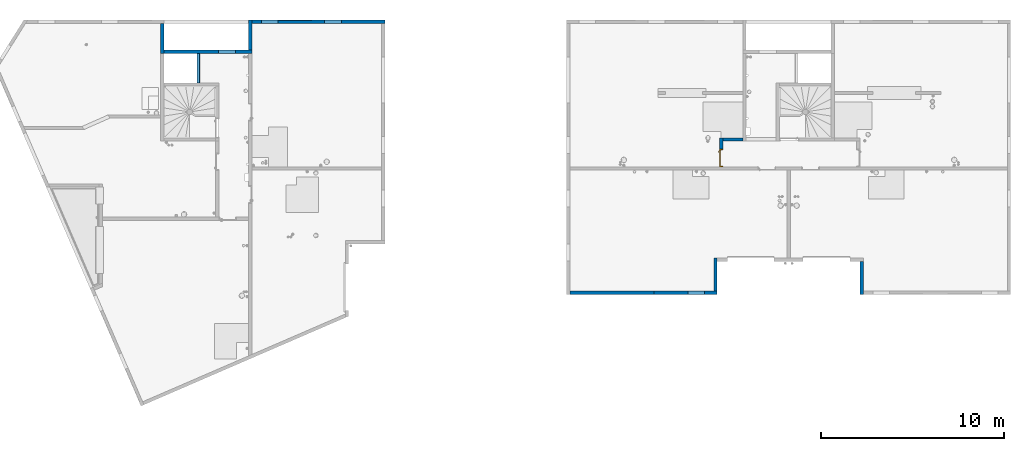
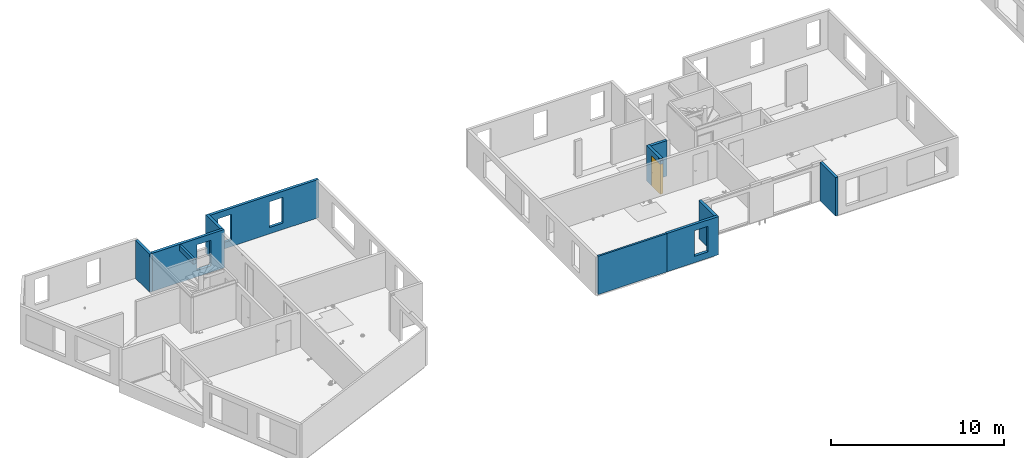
# One storey, part 6 of 24: 11 walls, 1 door, 11 openings.
"""IFC2X3 building model written with IfcOpenShell, lengths in centimetres."""

from ifc_helpers import new_model, entity, si_unit, converted_unit, derived_unit, direction, frame, frame_2d, origin, place, context, subcontext, project, spatial, polyline, rectangle, extrude, clip, bounded_halfspace, faceted_brep, source, transform, mapped, material, material_list, layer, layer_set, layer_usage, type_object, type_shapes, element, fill, save


model = new_model("IFC2X3")

# Units and contexts
model_context = context("Model", 3, precision=0.001, world=origin(), true_north=direction((6.12303176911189e-17, 1.0)))
body_context = subcontext(model_context, "Body", "Model", "MODEL_VIEW")
ifc_project = project(units=[si_unit("LENGTHUNIT", "METRE", prefix="CENTI"), si_unit("AREAUNIT", "SQUARE_METRE"), si_unit("VOLUMEUNIT", "CUBIC_METRE"), converted_unit("PLANEANGLEUNIT", "DEGREE", entity("IfcRatioMeasure", 0.0174532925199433), si_unit("PLANEANGLEUNIT", "RADIAN"), dimensions=[0, 0, 0, 0, 0, 0, 0]), si_unit("MASSUNIT", "GRAM", prefix="KILO"), derived_unit("MASSDENSITYUNIT", [(si_unit("MASSUNIT", "GRAM", prefix="KILO"), 1), (si_unit("LENGTHUNIT", "METRE"), -3)]), si_unit("TIMEUNIT", "SECOND"), si_unit("FREQUENCYUNIT", "HERTZ"), si_unit("THERMODYNAMICTEMPERATUREUNIT", "DEGREE_CELSIUS"), derived_unit("THERMALTRANSMITTANCEUNIT", [(si_unit("MASSUNIT", "GRAM", prefix="KILO"), 1), (si_unit("THERMODYNAMICTEMPERATUREUNIT", "KELVIN"), -1), (si_unit("TIMEUNIT", "SECOND"), -3)]), derived_unit("VOLUMETRICFLOWRATEUNIT", [(si_unit("LENGTHUNIT", "METRE"), 3), (si_unit("TIMEUNIT", "SECOND"), -1)]), si_unit("ELECTRICCURRENTUNIT", "AMPERE"), si_unit("ELECTRICVOLTAGEUNIT", "VOLT"), si_unit("POWERUNIT", "WATT"), si_unit("FORCEUNIT", "NEWTON"), si_unit("ILLUMINANCEUNIT", "LUX"), si_unit("LUMINOUSFLUXUNIT", "LUMEN"), si_unit("LUMINOUSINTENSITYUNIT", "CANDELA"), derived_unit("USERDEFINED", [(si_unit("MASSUNIT", "GRAM", prefix="KILO"), -1), (si_unit("LENGTHUNIT", "METRE"), -2), (si_unit("TIMEUNIT", "SECOND"), 3), (si_unit("LUMINOUSFLUXUNIT", "LUMEN"), 1)]), derived_unit("LINEARVELOCITYUNIT", [(si_unit("LENGTHUNIT", "METRE"), 1), (si_unit("TIMEUNIT", "SECOND"), -1)]), si_unit("PRESSUREUNIT", "PASCAL"), derived_unit("USERDEFINED", [(si_unit("LENGTHUNIT", "METRE"), -2), (si_unit("MASSUNIT", "GRAM", prefix="KILO"), 1), (si_unit("TIMEUNIT", "SECOND"), -2)])], contexts=[model_context])

# Site, building, storey
site_placement = place(None, origin())
site = spatial("IfcSite", under=ifc_project, at=site_placement, Name="Default", CompositionType="ELEMENT")
building_placement = place(site_placement, origin())
building = spatial("IfcBuilding", under=site, at=building_placement, Name="CAGE 03", CompositionType="ELEMENT")
storey_placement = place(building_placement, frame((0.0, 0.0, 1150.0)))
storey = spatial("IfcBuildingStorey", under=building, at=storey_placement, Name="R+4", CompositionType="ELEMENT", Elevation=1150.0)

# Wall
ifc_material_1 = material(Name="Béton, C25/30")
ifc_layer_1 = layer(ifc_material_1, 18.0)
ifc_layer_set_1 = layer_set([ifc_layer_1], Name="Mur de base:Voile BA 18")
ifc_layer_usage_1 = layer_usage(ifc_layer_set_1, "AXIS2", "NEGATIVE", 9.0)
wall_type_1 = type_object("IfcWallType", Name="Mur de base:Voile BA 18", PredefinedType="STANDARD", material=ifc_layer_set_1)
wall_1_placement = place(storey_placement, frame((3663.36582014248, 5275.66066607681, 0.0), z_axis=(0.0, 0.0, 1.0), x_axis=(0.0, -1.0, 0.0)))
element("IfcWallStandardCase", 1, at=wall_1_placement, inside=storey, type_object=wall_type_1, material=ifc_layer_usage_1, Name="Mur de base:Voile BA 18", ObjectType="Mur de base:Voile BA 18", context=body_context, shape_type="SweptSolid", body=[
    extrude(rectangle(XDim=165.0, YDim=18.0000000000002, at=frame_2d((82.4999999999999, 7.54951656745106e-14), x_axis=(-1.0, 0.0))), origin(), (0.0, 0.0, 1.0), 270.0),
])

# Wall, openings
ifc_layer_usage_2 = layer_usage(ifc_layer_set_1, "AXIS2", "NEGATIVE", 9.0)
wall_2_placement = place(storey_placement, frame((3672.36582014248, 5119.66066607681, 0.0)))
wall_2 = element("IfcWallStandardCase", 2, at=wall_2_placement, inside=storey, type_object=wall_type_1, material=ifc_layer_usage_2, Name="Mur de base:Voile BA 18", ObjectType="Mur de base:Voile BA 18", context=body_context, shape_type="SweptSolid", body=[
    extrude(rectangle(XDim=479.999999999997, YDim=17.9999999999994, at=frame_2d((239.999999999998, 1.87405646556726e-13), x_axis=(-1.0, 0.0))), origin(), (0.0, 0.0, 1.0), 270.0),
])
opening_1_placement = place(wall_2_placement, origin())
element("IfcOpeningElement", 3, at=opening_1_placement, cuts=wall_2, Name="Mur de base:Voile BA 18", ObjectType="Opening", context=body_context, shape_type="SweptSolid", body=[
    extrude(rectangle(XDim=227.0, YDim=17.9999999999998, at=frame_2d((2.16715534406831e-13, 2.20268248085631e-13), x_axis=(0.0, 1.0))), frame((189.0, -169.0, 113.5), z_axis=(0.0, 1.0, 0.0), x_axis=(1.0, 0.0, 0.0)), (0.0, 0.0, 1.0), 160.0),
])
opening_2_placement = place(wall_2_placement, frame((-3672.36582014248, -5119.66066607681, 0.0)))
element("IfcOpeningElement", 4, at=opening_2_placement, cuts=wall_2, Name="Mur de base:Voile BA 18", ObjectType="Opening", context=body_context, shape_type="SweptSolid", body=[
    extrude(rectangle(XDim=181.0, YDim=95.0000000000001, at=frame_2d((-2.1316282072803e-13, -4.33431068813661e-13), x_axis=(1.0, 0.0))), frame((4016.86582014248, 4958.26066607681, 135.5), z_axis=(0.0, 1.0, 0.0), x_axis=(0.0, 0.0, 1.0)), (0.0, 0.0, 1.0), 304.8),
])

# Walls
ifc_layer_usage_3 = layer_usage(ifc_layer_set_1, "AXIS2", "POSITIVE", -9.0)
wall_3_placement = place(storey_placement, frame((4143.36582014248, 5293.66066607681, 0.0), z_axis=(0.0, 0.0, 1.0), x_axis=(0.0, -1.0, 0.0)))
element("IfcWallStandardCase", 5, at=wall_3_placement, inside=storey, type_object=wall_type_1, material=ifc_layer_usage_3, Name="Mur de base:Voile BA 18", ObjectType="Mur de base:Voile BA 18", context=body_context, shape_type="SweptSolid", body=[
    extrude(rectangle(XDim=165.000000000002, YDim=17.9999999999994, at=frame_2d((82.5000000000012, -9.76996261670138e-15), x_axis=(-1.0, 0.0))), origin(), (0.0, 0.0, 1.0), 270.0),
])
ifc_layer_usage_4 = layer_usage(ifc_layer_set_1, "AXIS2", "POSITIVE", -9.0)
wall_4_placement = place(storey_placement, frame((6682.36582014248, 3814.6606660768, 0.0), z_axis=(0.0, 0.0, 1.0), x_axis=(0.0, 1.0, 0.0)))
element("IfcWallStandardCase", 6, at=wall_4_placement, inside=storey, type_object=wall_type_1, material=ifc_layer_usage_4, Name="Mur de base:Voile BA 18", ObjectType="Mur de base:Voile BA 18", context=body_context, shape_type="SweptSolid", body=[
    extrude(rectangle(XDim=179.999999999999, YDim=17.9999999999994, at=frame_2d((89.9999999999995, -1.4299672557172e-13), x_axis=(-1.0, 0.0))), origin(), (0.0, 0.0, 1.0), 270.0),
])
ifc_layer_usage_5 = layer_usage(ifc_layer_set_1, "AXIS2", "POSITIVE", -9.0)
wall_5_placement = place(storey_placement, frame((7480.36582014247, 3976.6606660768, 0.0), z_axis=(0.0, 0.0, 1.0), x_axis=(0.0, -1.0, 0.0)))
element("IfcWallStandardCase", 7, at=wall_5_placement, inside=storey, type_object=wall_type_1, material=ifc_layer_usage_5, Name="Mur de base:Voile BA 18", ObjectType="Mur de base:Voile BA 18", context=body_context, shape_type="SweptSolid", body=[
    extrude(rectangle(XDim=179.999999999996, YDim=17.9999999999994, at=frame_2d((89.9999999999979, -7.19424519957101e-14), x_axis=(-1.0, 0.0))), origin(), (0.0, 0.0, 1.0), 270.0),
])

# Wall, openings
ifc_layer_usage_6 = layer_usage(ifc_layer_set_1, "AXIS2", "POSITIVE", -9.0)
wall_6_placement = place(storey_placement, frame((4878.36582014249, 5284.66066607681, 0.0), z_axis=(0.0, 0.0, 1.0), x_axis=(-1.0, 0.0, 0.0)))
wall_6 = element("IfcWallStandardCase", 8, at=wall_6_placement, inside=storey, type_object=wall_type_1, material=ifc_layer_usage_6, Name="Mur de base:Voile BA 18", ObjectType="Mur de base:Voile BA 18", context=body_context, shape_type="SweptSolid", body=[
    extrude(rectangle(XDim=726.000000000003, YDim=17.9999999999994, at=frame_2d((363.000000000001, -2.1582735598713e-13), x_axis=(-1.0, 0.0))), origin(), (0.0, 0.0, 1.0), 270.0),
])
opening_3_placement = place(wall_6_placement, origin())
element("IfcOpeningElement", 9, at=opening_3_placement, cuts=wall_6, Name="Mur de base:Voile BA 18", ObjectType="Recess", context=body_context, shape_type="SweptSolid", body=[
    extrude(rectangle(XDim=181.0, YDim=184.0, at=frame_2d((0.0, -1.06581410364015e-13), x_axis=(0.0, 1.0))), frame((491.0, -9.0, 135.5), z_axis=(0.0, 1.0, 0.0), x_axis=(1.0, 0.0, 0.0)), (0.0, 0.0, 1.0), 1.99999999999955),
])
opening_4_placement = place(wall_6_placement, frame((4878.36582014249, 5284.66066607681, 0.0), z_axis=(0.0, 0.0, 1.0), x_axis=(-1.0, 0.0, 0.0)))
element("IfcOpeningElement", 10, at=opening_4_placement, cuts=wall_6, Name="Mur de base:Voile BA 18", ObjectType="Opening", context=body_context, shape_type="SweptSolid", body=[
    extrude(rectangle(XDim=181.0, YDim=91.0000000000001, at=frame_2d((0.0, 0.0), x_axis=(0.0, 1.0))), frame((4249.86582014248, 5428.06066607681, 135.5), z_axis=(0.0, -1.0, 0.0), x_axis=(1.0, 0.0, 0.0)), (0.0, 0.0, 1.0), 304.8),
])
opening_5_placement = place(wall_6_placement, frame((4878.36582014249, 5284.66066607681, 0.0), z_axis=(0.0, 0.0, 1.0), x_axis=(-1.0, 0.0, 0.0)))
element("IfcOpeningElement", 11, at=opening_5_placement, cuts=wall_6, Name="Mur de base:Voile BA 18", ObjectType="Opening", context=body_context, shape_type="SweptSolid", body=[
    extrude(rectangle(XDim=181.0, YDim=91.0000000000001, at=frame_2d((0.0, 0.0), x_axis=(0.0, 1.0))), frame((4594.86582014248, 5428.06066607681, 135.5), z_axis=(0.0, -1.0, 0.0), x_axis=(1.0, 0.0, 0.0)), (0.0, 0.0, 1.0), 304.8),
])

# Wall, openings, door
ifc_layer_usage_7 = layer_usage(ifc_layer_set_1, "AXIS2", "NEGATIVE", 9.0)
wall_7_placement = place(storey_placement, frame((6713.36582014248, 4492.6606660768, 0.0), z_axis=(0.0, 0.0, 1.0), x_axis=(0.0, 1.0, 0.0)))
wall_7 = element("IfcWallStandardCase", 12, at=wall_7_placement, inside=storey, type_object=wall_type_1, material=ifc_layer_usage_7, Name="Mur de base:Voile BA 18", ObjectType="Mur de base:Voile BA 18", context=body_context, shape_type="SweptSolid", body=[
    extrude(rectangle(XDim=158.0, YDim=17.9999999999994, at=frame_2d((79.0000000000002, 1.66977542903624e-13), x_axis=(-1.0, 0.0))), origin(), (0.0, 0.0, 1.0), 250.0),
])
opening_6_placement = place(wall_7_placement, origin())
element("IfcOpeningElement", 13, at=opening_6_placement, cuts=wall_7, Name="Mur de base:Voile BA 18", ObjectType="Opening", context=body_context, shape_type="SweptSolid", body=[
    extrude(rectangle(XDim=10.0000000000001, YDim=19.9999999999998, at=frame_2d((-4.33431068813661e-13, 1.08357767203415e-13), x_axis=(0.0, 1.0))), frame((10.0, -9.0, 242.500000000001), z_axis=(0.0, 1.0, 0.0), x_axis=(1.0, 0.0, 0.0)), (0.0, 0.0, 1.0), 17.9999999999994),
])
opening_7_placement = place(wall_7_placement, frame((0.0, -9.0, 0.0)))
opening_7 = element("IfcOpeningElement", 14, at=opening_7_placement, cuts=wall_7, Name="Int. Simple:HB93:1", ObjectType="Opening", context=body_context, shape_type="SweptSolid", body=[
    extrude(rectangle(XDim=210.000000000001, YDim=96.9999999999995, at=frame_2d((105.000000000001, 48.4999999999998), x_axis=(1.0, 0.0))), frame((0.0, 0.0, 0.0), z_axis=(0.0, 1.0, 0.0), x_axis=(0.0, 0.0, 1.0)), (0.0, 0.0, 1.0), 18.0),
])
ifc_material_2 = material(Name="Finition Peinture - Blanc satiné")
ifc_material_3 = material(Name="Bois - Panneau de porte")
ifc_material_4 = material(Name="Bois - Cadre de porte")
ifc_material_list_1 = material_list([ifc_material_2, ifc_material_3, ifc_material_4])
ifc_material_list_2 = material_list([ifc_material_2, ifc_material_3, ifc_material_4])
door_style = type_object("IfcDoorStyle", Name="HB93", ConstructionType="NOTDEFINED", OperationType="SINGLE_SWING_LEFT", ParameterTakesPrecedence=False, Sizeable=False, material=ifc_material_list_2)
shared_shape = source(origin(), body_context, "Body", "Brep", [
    faceted_brep([(10.5352761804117, -0.500000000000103, 86.6003983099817), (11.5000000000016, -0.500000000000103, 87.0), (11.5000000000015, -0.500000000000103, 108.0), (10.5352761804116, -0.500000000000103, 108.399601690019), (9.50000000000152, -0.500000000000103, 108.535898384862), (8.46472381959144, -0.500000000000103, 108.399601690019), (7.50000000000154, -0.500000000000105, 108.0), (7.50000000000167, -0.500000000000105, 87.0), (8.46472381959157, -0.500000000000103, 86.6003983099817), (9.50000000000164, -0.500000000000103, 86.464101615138), (10.5352761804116, 0.0, 108.399601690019), (11.5000000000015, 0.0, 108.0), (11.5000000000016, 0.0, 87.0), (10.5352761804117, 0.0, 86.6003983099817), (9.50000000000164, 0.0, 86.464101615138), (8.46472381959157, 0.0, 86.6003983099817), (7.50000000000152, 0.0, 87.0), (7.50000000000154, 0.0, 108.0), (8.46472381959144, 0.0, 108.399601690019), (9.50000000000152, 0.0, 108.535898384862)], [[[0, 1, 2, 3, 4, 5, 6, 7, 8, 9]], [[10, 11, 12, 13, 14, 15, 16, 17, 18, 19]], [[16, 15, 8, 7]], [[8, 15, 14, 9]], [[14, 13, 0, 9]], [[13, 12, 1, 0]], [[2, 1, 12, 11]], [[11, 10, 3, 2]], [[3, 10, 19, 4]], [[19, 18, 5, 4]], [[18, 17, 6, 5]], [[7, 6, 17, 16]]]),
    faceted_brep([(10.5352761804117, 4.0, 86.6003983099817), (11.5000000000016, 4.0, 87.0), (11.5000000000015, 4.0, 108.0), (10.5352761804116, 4.0, 108.399601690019), (9.50000000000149, 4.0, 108.535898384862), (8.46472381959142, 4.0, 108.399601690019), (7.50000000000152, 4.0, 108.0), (7.50000000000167, 4.0, 87.0), (8.46472381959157, 4.0, 86.6003983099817), (9.50000000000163, 4.0, 86.464101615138), (10.5352761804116, 4.49999999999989, 108.399601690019), (11.5000000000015, 4.4999999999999, 108.0), (11.5000000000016, 4.4999999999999, 87.0), (10.5352761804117, 4.49999999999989, 86.6003983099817), (9.50000000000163, 4.49999999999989, 86.464101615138), (8.46472381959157, 4.49999999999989, 86.6003983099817), (7.50000000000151, 4.49999999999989, 87.0), (7.50000000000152, 4.49999999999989, 108.0), (8.46472381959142, 4.49999999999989, 108.399601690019), (9.50000000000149, 4.49999999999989, 108.535898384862)], [[[0, 1, 2, 3, 4, 5, 6, 7, 8, 9]], [[10, 11, 12, 13, 14, 15, 16, 17, 18, 19]], [[11, 10, 3, 2]], [[3, 10, 19, 4]], [[19, 18, 5, 4]], [[18, 17, 6, 5]], [[7, 6, 17, 16]], [[16, 15, 8, 7]], [[8, 15, 14, 9]], [[14, 13, 0, 9]], [[13, 12, 1, 0]], [[2, 1, 12, 11]]]),
    faceted_brep([(9.29747013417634, -0.500000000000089, 100.778044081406), (9.70252986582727, -0.500000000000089, 100.778044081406), (10.1000000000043, -0.500000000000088, 100.699999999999), (10.1000000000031, -0.500000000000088, 99.3000000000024), (9.70252986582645, -0.500000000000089, 99.2219559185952), (9.29747013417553, -0.500000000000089, 99.221955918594), (8.89999999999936, -0.500000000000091, 99.2999999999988), (8.89999999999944, -0.500000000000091, 100.7), (8.89999999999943, -3.26509507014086, 100.7), (9.29747013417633, -3.10045754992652, 100.778044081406), (10.9023585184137, -4.70534593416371, 100.778044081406), (11.0701397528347, -4.30028620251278, 100.778044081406), (9.70252986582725, -2.93267631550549, 100.778044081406), (10.1000000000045, -2.76803879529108, 100.7), (10.1000000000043, -2.76803879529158, 99.3000000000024), (9.70252986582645, -2.93267631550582, 99.2219559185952), (11.0701397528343, -4.30028620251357, 99.2219559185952), (10.9023585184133, -4.70534593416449, 99.221955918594), (9.29747013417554, -3.10045754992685, 99.221955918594), (8.89999999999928, -3.26509507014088, 99.2999999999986), (10.7377209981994, -5.1028160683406, 100.7), (11.2347772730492, -3.90281606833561, 100.7), (11.2347772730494, -3.90281606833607, 99.3000000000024), (10.7377209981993, -5.10281606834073, 99.2999999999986), (19.5018640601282, -5.1028160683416, 99.2999999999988), (19.5018640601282, -4.70534593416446, 99.221955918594), (19.5018640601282, -4.30028620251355, 99.2219559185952), (19.5018640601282, -3.90281606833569, 99.3000000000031), (19.5018640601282, -3.90281606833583, 100.7), (19.5018640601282, -4.30028620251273, 100.778044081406), (19.5018640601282, -4.70534593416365, 100.778044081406), (19.5018640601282, -5.10281606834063, 100.699999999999), (14.7307697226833, -5.10281606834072, 100.7), (15.28600190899, -4.5028160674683, 100.78786867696), (15.3683206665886, -3.9028160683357, 100.7), (15.3683206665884, -3.90281606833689, 99.3000000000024), (15.2860018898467, -4.50281607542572, 99.2121313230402), (14.7307700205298, -5.10281606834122, 99.2999999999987)], [[[0, 1, 2, 3, 4, 5, 6, 7]], [[8, 9, 0, 7]], [[9, 10, 11, 12, 1, 0]], [[12, 13, 2, 1]], [[3, 2, 13, 14]], [[14, 15, 4, 3]], [[15, 16, 17, 18, 5, 4]], [[18, 19, 6, 5]], [[7, 6, 19, 8]], [[20, 10, 9, 8]], [[11, 21, 13, 12]], [[14, 13, 21, 22]], [[22, 16, 15, 14]], [[17, 23, 19, 18]], [[8, 19, 23, 20]], [[24, 25, 26, 27, 28, 29, 30, 31]], [[32, 30, 33]], [[31, 30, 32]], [[10, 20, 32]], [[33, 34, 11]], [[21, 11, 34]], [[34, 29, 28]], [[30, 29, 33]], [[29, 34, 33]], [[10, 32, 33]], [[10, 33, 11]], [[22, 21, 34, 28, 27, 35]], [[35, 26, 36]], [[37, 36, 25]], [[22, 35, 16]], [[35, 27, 26]], [[24, 37, 25]], [[23, 17, 37]], [[37, 17, 36]], [[17, 16, 36]], [[16, 35, 36]], [[25, 36, 26]], [[20, 23, 37, 24, 31, 32]]]),
    faceted_brep([(9.29747013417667, 4.49999999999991, 100.778044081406), (8.89999999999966, 4.49999999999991, 100.7), (8.89999999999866, 4.49999999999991, 99.2999999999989), (9.2974701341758, 4.49999999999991, 99.221955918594), (9.70252986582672, 4.49999999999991, 99.2219559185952), (10.1000000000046, 4.49999999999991, 99.3000000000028), (10.1000000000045, 4.49999999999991, 100.7), (9.70252986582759, 4.49999999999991, 100.778044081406), (10.1000000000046, 6.7485204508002, 99.3000000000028), (10.1000000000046, 6.74852045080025, 100.7), (9.70252986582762, 6.91315797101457, 100.778044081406), (11.0838906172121, 8.29451872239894, 100.778044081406), (10.9161093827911, 8.69957845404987, 100.778044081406), (9.29747013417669, 7.0809392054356, 100.778044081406), (8.89999999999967, 7.24557672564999, 100.7), (8.89999999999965, 7.24557672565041, 99.2999999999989), (9.29747013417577, 7.08093920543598, 99.221955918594), (10.9161093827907, 8.69957845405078, 99.221955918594), (11.0838906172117, 8.29451872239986, 99.2219559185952), (9.7025298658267, 6.91315797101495, 99.2219559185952), (11.2485281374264, 7.89704858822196, 99.3000000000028), (11.2485281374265, 7.89704858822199, 100.7), (10.7514718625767, 9.0970485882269, 100.7), (10.751471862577, 9.0970485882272, 99.2999999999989), (19.504578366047, 7.89704858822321, 99.3000000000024), (19.504578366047, 8.29451872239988, 99.2219559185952), (19.504578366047, 8.6995784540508, 99.221955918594), (19.504578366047, 9.09704858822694, 99.2999999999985), (19.504578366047, 9.09704858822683, 100.7), (19.504578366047, 8.69957845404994, 100.778044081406), (19.504578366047, 8.29451872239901, 100.778044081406), (19.504578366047, 7.89704858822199, 100.7), (15.3765520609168, 7.89704858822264, 99.3000000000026), (15.3765532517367, 7.89704858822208, 100.7), (15.294234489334, 8.49704858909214, 100.78786867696), (14.7445205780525, 9.09704858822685, 100.7), (14.7445204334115, 9.09704858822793, 99.2999999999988), (15.2942345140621, 8.49704858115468, 99.2121313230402)], [[[0, 1, 2, 3, 4, 5, 6, 7]], [[6, 5, 8, 9]], [[9, 10, 7, 6]], [[10, 11, 12, 13, 0, 7]], [[13, 14, 1, 0]], [[2, 1, 14, 15]], [[15, 16, 3, 2]], [[16, 17, 18, 19, 4, 3]], [[19, 8, 5, 4]], [[9, 8, 20, 21]], [[21, 11, 10, 9]], [[12, 22, 14, 13]], [[15, 14, 22, 23]], [[23, 17, 16, 15]], [[18, 20, 8, 19]], [[24, 25, 26, 27, 28, 29, 30, 31]], [[21, 20, 32, 24, 31, 33]], [[33, 30, 34]], [[35, 34, 29]], [[21, 33, 11]], [[33, 31, 30]], [[28, 35, 29]], [[22, 12, 35]], [[35, 12, 34]], [[12, 11, 34]], [[11, 33, 34]], [[29, 34, 30]], [[22, 35, 28, 27, 36, 23]], [[36, 26, 37]], [[27, 26, 36]], [[17, 23, 36]], [[37, 32, 18]], [[20, 18, 32]], [[32, 25, 24]], [[26, 25, 37]], [[25, 32, 37]], [[17, 36, 37]], [[17, 37, 18]]]),
    faceted_brep([(3.50000000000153, 4.0, 206.5), (93.5000000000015, 4.0, 206.5), (93.5000000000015, 4.0, 0.0), (3.50000000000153, 4.0, 0.0), (3.50000000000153, 0.0, 206.5), (3.50000000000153, 0.0, 0.0), (93.5000000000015, 0.0, 0.0), (93.5000000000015, 0.0, 206.5)], [[[0, 1, 2, 3]], [[4, 5, 6, 7]], [[1, 0, 4, 7]], [[2, 1, 7, 6]], [[3, 2, 6, 5]], [[0, 3, 5, 4]]]),
    faceted_brep([(0.0, 0.0, 0.0), (0.0, 18.0, 0.0), (5.0, 18.0, 0.0), (5.0, 4.0, 0.0), (3.50000000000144, 4.0, 0.0), (3.50000000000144, 0.0, 0.0), (0.0, 0.0, 210.0), (0.0, 18.0, 210.0), (97.0, 18.0, 210.0), (97.0, 18.0, 0.0), (92.0, 18.0, 0.0), (92.0, 18.0, 205.0), (5.0, 18.0, 205.0), (5.0, 4.0, 205.0), (92.0, 4.0, 205.0), (92.0, 4.0, 0.0), (93.4999999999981, 4.0, 0.0), (93.4999999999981, 4.0, 206.5), (3.50000000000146, 4.0, 206.5), (3.50000000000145, 0.0, 206.5), (93.4999999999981, 0.0, 206.5), (93.4999999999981, 0.0, 0.0), (97.0, 0.0, 0.0), (97.0, 0.0, 210.0)], [[[0, 1, 2, 3, 4, 5]], [[1, 0, 6, 7]], [[2, 1, 7, 8, 9, 10, 11, 12]], [[3, 2, 12, 13]], [[4, 3, 13, 14, 15, 16, 17, 18]], [[5, 4, 18, 19]], [[0, 5, 19, 20, 21, 22, 23, 6]], [[8, 23, 22, 9]], [[22, 21, 16, 15, 10, 9]], [[14, 11, 10, 15]], [[20, 17, 16, 21]], [[7, 6, 23, 8]], [[13, 12, 11, 14]], [[19, 18, 17, 20]]]),
    faceted_brep([(1.5, 18.0, 0.0), (-1.49999999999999, 18.0, 0.0), (-1.49999999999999, 18.5000000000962, 0.0), (1.5, 18.5000000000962, 0.0), (1.5, 18.0, 208.500000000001), (95.4999999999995, 18.0, 208.500000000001), (95.4999999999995, 18.0, 0.0), (98.4999999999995, 18.0, 0.0), (98.4999999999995, 18.0, 211.500000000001), (-1.49999999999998, 18.0, 211.500000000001), (-1.49999999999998, 18.5000000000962, 211.500000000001), (98.4999999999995, 18.5000000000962, 211.500000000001), (98.4999999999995, 18.5000000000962, 0.0), (95.4999999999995, 18.5000000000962, 0.0), (95.4999999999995, 18.5000000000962, 208.500000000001), (1.50000000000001, 18.5000000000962, 208.500000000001)], [[[0, 1, 2, 3]], [[1, 0, 4, 5, 6, 7, 8, 9]], [[2, 1, 9, 10]], [[3, 2, 10, 11, 12, 13, 14, 15]], [[0, 3, 15, 4]], [[6, 13, 12, 7]], [[5, 14, 13, 6]], [[11, 8, 7, 12]], [[10, 9, 8, 11]], [[4, 15, 14, 5]]]),
    faceted_brep([(-1.49999999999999, -0.5, 0.0), (1.5, -0.5, 0.0), (1.5, -0.5, 208.500000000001), (95.4999999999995, -0.5, 208.500000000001), (95.4999999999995, -0.5, 0.0), (98.4999999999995, -0.5, 0.0), (98.4999999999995, -0.5, 211.500000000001), (-1.49999999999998, -0.5, 211.500000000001), (-1.49999999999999, 0.0, 0.0), (-1.49999999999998, 0.0, 211.500000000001), (1.5, 0.0, 0.0), (98.4999999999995, 0.0, 211.500000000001), (98.4999999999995, 0.0, 0.0), (95.4999999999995, 0.0, 0.0), (95.4999999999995, 0.0, 208.500000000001), (1.50000000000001, 0.0, 208.500000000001)], [[[0, 1, 2, 3, 4, 5, 6, 7]], [[8, 0, 7, 9]], [[10, 8, 9, 11, 12, 13, 14, 15]], [[1, 10, 15, 2]], [[3, 14, 13, 4]], [[11, 6, 5, 12]], [[9, 7, 6, 11]], [[2, 15, 14, 3]], [[4, 13, 12, 5]], [[1, 0, 8, 10]]]),
])
type_shapes(door_style, [shared_shape])
door_placement = place(opening_7_placement, frame((97.0, 18.0, 0.0), z_axis=(0.0, 0.0, 1.0), x_axis=(-1.0, 0.0, 0.0)))
door = element("IfcDoor", 15, at=door_placement, inside=storey, type_object=door_style, material=ifc_material_list_1, Name="Int. Simple:HB93", ObjectType="HB93", OverallHeight=210.000000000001, OverallWidth=96.9999999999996, context=body_context, shape_type="MappedRepresentation", body=[
    mapped(shared_shape, transform((0.0, 0.0, 0.0), scale=1.0)),
])
fill(opening_7, door)

# Wall
ifc_layer_usage_8 = layer_usage(ifc_layer_set_1, "AXIS2", "NEGATIVE", 9.0)
wall_8_placement = place(storey_placement, frame((6722.36582014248, 4641.6606660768, 0.0)))
element("IfcWallStandardCase", 16, at=wall_8_placement, inside=storey, type_object=wall_type_1, material=ifc_layer_usage_8, Name="Mur de base:Voile BA 18", ObjectType="Mur de base:Voile BA 18", context=body_context, shape_type="SweptSolid", body=[
    extrude(rectangle(XDim=109.000000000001, YDim=17.9999999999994, at=frame_2d((54.5000000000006, -1.86517468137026e-14), x_axis=(-1.0, 0.0))), origin(), (0.0, 0.0, 1.0), 250.0),
])

# Wall, opening
ifc_layer_usage_9 = layer_usage(ifc_layer_set_1, "AXIS2", "POSITIVE", -9.0)
wall_9_placement = place(storey_placement, frame((3861.36582014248, 5110.66066607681, 227.0), z_axis=(0.0, 0.0, 1.0), x_axis=(0.0, -1.0, 0.0)))
wall_9 = element("IfcWallStandardCase", 17, at=wall_9_placement, inside=storey, type_object=wall_type_1, material=ifc_layer_usage_9, Name="Mur de base:Voile BA 18", ObjectType="Mur de base:Voile BA 18", context=body_context, shape_type="Clipping", body=[
    clip(clip(extrude(rectangle(XDim=159.999999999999, YDim=18.0000000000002, at=frame_2d((79.9999999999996, -8.08242361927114e-14), x_axis=(-1.0, 0.0))), origin(), (0.0, 0.0, 1.0), 36.0000000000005), bounded_halfspace(frame((0.0, 6.0, 23.0), z_axis=(0.0, 0.0, -1.0), x_axis=(1.0, 0.0, 0.0)), True, frame((0.0, 6.0, 23.0), z_axis=(0.0, 0.0, -1.0), x_axis=(1.0, 0.0, 0.0)), polyline([(0.0, 0.0), (0.0, -3.0), (160.0, -3.0), (160.0, 0.0), (0.0, 0.0)]))), bounded_halfspace(frame((160.0, 6.0, 23.0), z_axis=(0.0, -1.0, 0.0), x_axis=(0.0, 0.0, 1.0)), True, frame((160.0, 6.0, 23.0), z_axis=(0.0, -1.0, 0.0), x_axis=(0.0, 0.0, 1.0)), polyline([(0.0, 0.0), (13.0, 0.0), (13.0, 160.0), (0.0, 160.0), (0.0, 0.0)]))),
])
opening_8_placement = place(wall_9_placement, frame((5110.66066607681, -3861.36582014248, -227.0), z_axis=(0.0, 0.0, 1.0), x_axis=(0.0, 1.0, 0.0)))
element("IfcOpeningElement", 18, at=opening_8_placement, cuts=wall_9, Name="Mur de base:Voile BA 18", ObjectType="Opening", context=body_context, shape_type="SweptSolid", body=[
    extrude(rectangle(XDim=227.0, YDim=160.0, at=frame_2d((0.0, 0.0), x_axis=(0.0, 1.0))), frame((3717.96582014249, 5030.66066607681, 113.5), z_axis=(1.0, 0.0, 0.0), x_axis=(0.0, 1.0, 0.0)), (0.0, 0.0, 1.0), 304.8),
])

# Wall, openings
ifc_layer_usage_10 = layer_usage(ifc_layer_set_1, "AXIS2", "POSITIVE", -9.0)
wall_10_placement = place(storey_placement, frame((6347.36582014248, 3805.6606660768, 0.0)))
wall_10 = element("IfcWallStandardCase", 19, at=wall_10_placement, inside=storey, type_object=wall_type_1, material=ifc_layer_usage_10, Name="Mur de base:Voile BA 18", ObjectType="Mur de base:Voile BA 18", context=body_context, shape_type="SweptSolid", body=[
    extrude(rectangle(XDim=344.0, YDim=18.0000000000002, at=frame_2d((172.0, -1.04805053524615e-13), x_axis=(-1.0, 0.0))), origin(), (0.0, 0.0, 1.0), 270.0),
])
opening_9_placement = place(wall_10_placement, origin())
element("IfcOpeningElement", 20, at=opening_9_placement, cuts=wall_10, Name="Mur de base:Voile BA 18", ObjectType="Recess", context=body_context, shape_type="SweptSolid", body=[
    extrude(rectangle(XDim=181.0, YDim=184.0, at=frame_2d((-1.06581410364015e-13, 0.0), x_axis=(1.0, 0.0))), frame((1376.0, -9.0, 135.5), z_axis=(0.0, 1.0, 0.0), x_axis=(0.0, 0.0, -1.0)), (0.0, 0.0, 1.0), 1.99999999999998),
])
opening_10_placement = place(wall_10_placement, origin())
element("IfcOpeningElement", 21, at=opening_10_placement, cuts=wall_10, Name="Mur de base:Voile BA 18", ObjectType="Recess", context=body_context, shape_type="SweptSolid", body=[
    extrude(rectangle(XDim=181.0, YDim=184.0, at=frame_2d((-1.06581410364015e-13, 0.0), x_axis=(1.0, 0.0))), frame((1693.0, -9.0, 135.5), z_axis=(0.0, 1.0, 0.0), x_axis=(0.0, 0.0, -1.0)), (0.0, 0.0, 1.0), 1.99999999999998),
])
opening_11_placement = place(wall_10_placement, frame((-6347.36582014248, -3805.6606660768, 0.0)))
element("IfcOpeningElement", 22, at=opening_11_placement, cuts=wall_10, Name="Mur de base:Voile BA 18", ObjectType="Opening", context=body_context, shape_type="SweptSolid", body=[
    extrude(rectangle(XDim=181.0, YDim=91.0000000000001, at=frame_2d((0.0, 1.06581410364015e-13), x_axis=(0.0, 1.0))), frame((6576.86582014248, 3644.2606660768, 135.5), z_axis=(0.0, 1.0, 0.0), x_axis=(-1.0, 0.0, 0.0)), (0.0, 0.0, 1.0), 304.8),
])

# Wall
ifc_material_5 = material(Name="Béton, panneaux préfa 30/37")
ifc_layer_2 = layer(ifc_material_5, 5.5)
ifc_layer_3 = layer(ifc_material_1, 7.0)
ifc_layer_4 = layer(ifc_material_5, 5.5)
ifc_layer_set_2 = layer_set([ifc_layer_2, ifc_layer_3, ifc_layer_4], Name="Mur de base:premur 18")
ifc_layer_usage_11 = layer_usage(ifc_layer_set_2, "AXIS2", "POSITIVE", -9.0)
wall_type_2 = type_object("IfcWallType", Name="Mur de base:premur 18", PredefinedType="NOTDEFINED")
wall_11_placement = place(storey_placement, frame((5888.36582014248, 3805.66066607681, 0.0)))
element("IfcWallStandardCase", 23, at=wall_11_placement, inside=storey, type_object=wall_type_2, material=ifc_layer_usage_11, Name="Mur de base:premur 18", ObjectType="Mur de base:premur 18", context=body_context, shape_type="Clipping", body=[
    clip(clip(extrude(rectangle(XDim=459.000000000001, YDim=18.0000000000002, at=frame_2d((229.500000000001, 7.72715225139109e-14), x_axis=(-1.0, 0.0))), origin(), (0.0, 0.0, 1.0), 270.0), bounded_halfspace(frame((0.0, 3.50000000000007, 250.0), z_axis=(0.0, 0.0, -1.0), x_axis=(-1.0, 0.0, 0.0)), True, frame((0.0, 3.50000000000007, 250.0), z_axis=(0.0, 0.0, -1.0), x_axis=(-1.0, 0.0, 0.0)), polyline([(0.0, 0.0), (0.0, 5.50000000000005), (-459.0, 5.49999999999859), (-459.0, 0.0), (0.0, 0.0)]))), bounded_halfspace(frame((459.0, 3.50000000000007, 250.0), z_axis=(0.0, -1.0, 0.0), x_axis=(0.0, 0.0, 1.0)), True, frame((459.0, 3.50000000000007, 250.0), z_axis=(0.0, -1.0, 0.0), x_axis=(0.0, 0.0, 1.0)), polyline([(0.0, 0.0), (20.0, 0.0), (20.0, 459.0), (0.0, 459.0), (0.0, 0.0)]))),
])

save(model, "model.ifc")
